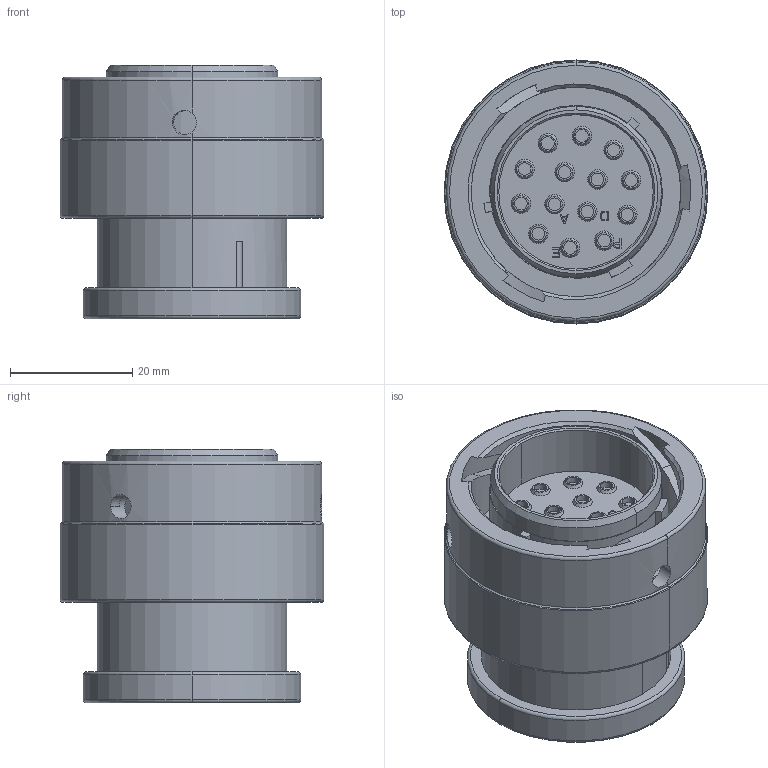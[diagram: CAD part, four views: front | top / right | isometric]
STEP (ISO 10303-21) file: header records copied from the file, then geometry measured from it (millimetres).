
FILE_DESCRIPTION((''),'2;1');
FILE_NAME('C-HDP26-18-14PE-L017','2013-06-25T',('workeradm'),('Tyco Electronics Ltd.'),'PRO/ENGINEER BY PARAMETRIC TECHNOLOGY CORPORATION, 2011490','PRO/ENGINEER BY PARAMETRIC TECHNOLOGY CORPORATION, 2011490','');
FILE_SCHEMA(('AUTOMOTIVE_DESIGN { 1 0 10303 214 1 1 1 1 }'));
Length unit declared in the file: millimetre
Products named in the file (1): C-HDP26-18-14PE-L017
Bounding box: 43.18 x 43.18 x 41.53 mm (x, y, z)
Volume: 37269.5 mm3; surface area: 12754.9 mm2
Topology: 1 solids, 1 shells, 397 faces, 919 edges, 592 vertices
Faces by surface type: plane 160, cylinder 126, bspline 60, cone 35, torus 16
Entity records: 14278 total; most frequent: CARTESIAN_POINT 4958, DIRECTION 1860, ORIENTED_EDGE 1838, EDGE_CURVE 919, AXIS2_PLACEMENT_3D 714, VERTEX_POINT 592, EDGE_LOOP 471, VECTOR 432
